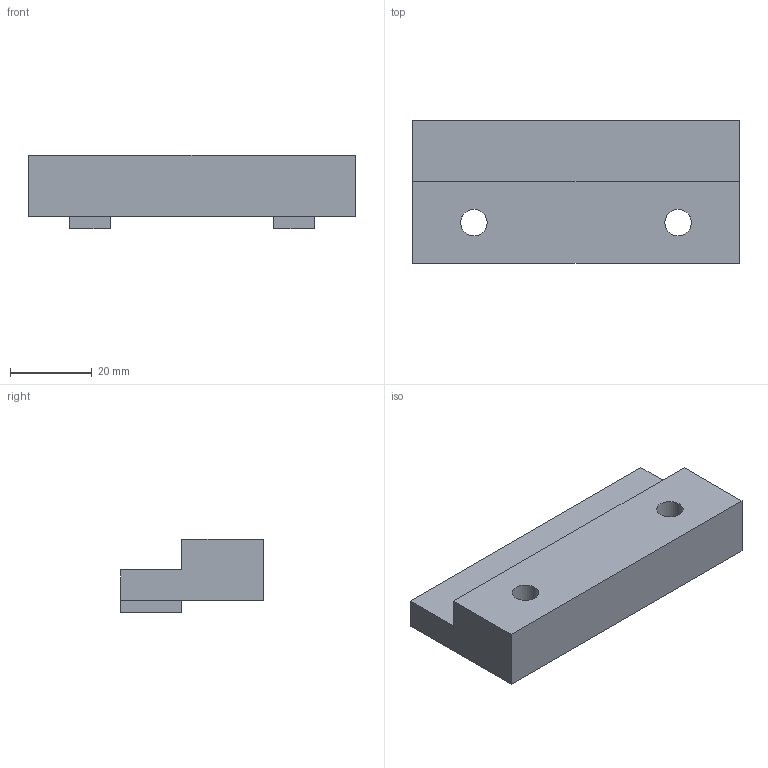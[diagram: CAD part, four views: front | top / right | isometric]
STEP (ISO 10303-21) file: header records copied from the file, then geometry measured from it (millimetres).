
FILE_DESCRIPTION(('STEP AP203'), '1');
FILE_NAME('ÒÏÏÔ1801.01.30.00.005 - Óïîð ïðèâîäà', '', ('UNSPECIFIED'), ('UNSPECIFIED'), 'C3D Converter', 'C3D Toolkit', '');
FILE_SCHEMA(('CONFIG_CONTROL_DESIGN'));
Length unit declared in the file: millimetre
Products named in the file (1): ТППФ1801.01.30.00.005
Bounding box: 80 x 35 x 18 mm (x, y, z)
Volume: 32904.5 mm3; surface area: 9604.9 mm2
Topology: 1 solids, 1 shells, 18 faces, 48 edges, 32 vertices
Faces by surface type: plane 16, cylinder 2
Full cylindrical faces by diameter (mm): 6.5 x2
Entity records: 733 total; most frequent: CARTESIAN_POINT 97, ORIENTED_EDGE 92, DIRECTION 88, EDGE_CURVE 46, LINE 42, VECTOR 42, VERTEX_POINT 32, EDGE_LOOP 24
